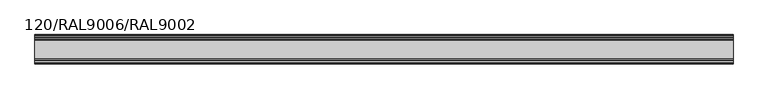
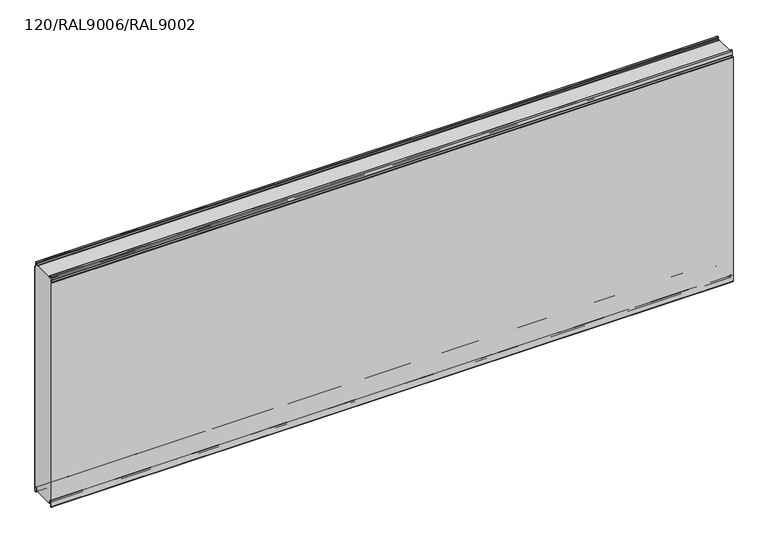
"""IFC4 building model written with IfcOpenShell, lengths in millimetres: plate geometry, TR_C_H_FTV_Panel : 120/RAL9006/RAL9002."""

from ifc_helpers import new_model, si_unit, point, frame, frame_2d, origin, place, context, project, spatial, polyline, circle_curve, trimmed, segment, composite_curve, outline, extrude, source, transform, mapped, element, save


def plate_120_ral9006_ral9002_e1d061e9(model_context):
    return source(origin(), model_context, "Body", "SweptSolid", [
        extrude(outline(composite_curve([segment(polyline([(-0.8, 14.4000012), (-9.45, 14.4000012)]), True, "CONTINUOUS"), segment(trimmed(circle_curve(frame_2d((-9.45, 10.1500012)), 4.25), [point((-9.45, 14.4000012))], [point((-13.635433, 10.8880059))], True, "CARTESIAN"), True, "CONTINUOUS"), segment(polyline([(-13.635433, 10.8880059), (-14.7022582, 4.837739)]), True, "CONTINUOUS"), segment(trimmed(circle_curve(frame_2d((-17.6074411, 5.3500012)), 2.95), [point((-14.7022582, 4.837739))], [point((-17.6074411, 2.4000012))], False, "CARTESIAN"), True, "CONTINUOUS"), segment(polyline([(-17.6074411, 2.4000012), (-23.7, 2.4000012), (-23.7, 1.2e-06), (-96.3, 1.2e-06), (-96.3, 2.4000012), (-102.3925589, 2.4000012)]), True, "CONTINUOUS"), segment(trimmed(circle_curve(frame_2d((-102.3925589, 5.3500012)), 2.95), [point((-102.3925589, 2.4000012))], [point((-105.2977418, 4.837739))], False, "CARTESIAN"), True, "CONTINUOUS"), segment(polyline([(-105.2977418, 4.837739), (-106.364567, 10.8880059)]), True, "CONTINUOUS"), segment(trimmed(circle_curve(frame_2d((-110.55, 10.1500012)), 4.25), [point((-106.364567, 10.8880059))], [point((-110.55, 14.4000012))], True, "CARTESIAN"), True, "CONTINUOUS"), segment(polyline([(-110.55, 14.4000012), (-119.2, 14.4000012), (-119.2, 984.3218266)]), True, "CONTINUOUS"), segment(trimmed(circle_curve(frame_2d((-117.0, 984.3218266)), 2.2), [point((-119.2, 984.3218266))], [point((-118.5556349, 985.8774615))], False, "CARTESIAN"), True, "CONTINUOUS"), segment(polyline([(-118.5556349, 985.8774615), (-114.1665476, 990.2665488)]), True, "CONTINUOUS"), segment(trimmed(circle_curve(frame_2d((-116.5, 992.6000012)), 3.3), [point((-114.1665476, 990.2665488))], [point((-113.2, 992.6000012))], True, "CARTESIAN"), True, "CONTINUOUS"), segment(polyline([(-113.2, 992.6000012), (-113.2, 1000.0), (-6.8, 1000.0), (-6.8, 992.6000012)]), True, "CONTINUOUS"), segment(trimmed(circle_curve(frame_2d((-3.5, 992.6000012)), 3.3), [point((-6.8, 992.6000012))], [point((-5.8334524, 990.2665488))], True, "CARTESIAN"), True, "CONTINUOUS"), segment(polyline([(-5.8334524, 990.2665488), (-1.4443651, 985.8774615)]), True, "CONTINUOUS"), segment(trimmed(circle_curve(frame_2d((-3.0, 984.3218266)), 2.2), [point((-1.4443651, 985.8774615))], [point((-0.8, 984.3218266))], False, "CARTESIAN"), True, "CONTINUOUS"), segment(polyline([(-0.8, 984.3218266), (-0.8, 14.4000012)]), True, "CONTINUOUS")], self_intersect=False)), frame((-1370.0, 0.0, 0.0), z_axis=(1.0, 0.0, 0.0), x_axis=(0.0, 1.0, 0.0)), (0.0, 0.0, 1.0), 2850.0),
        extrude(outline(composite_curve([segment(polyline([(-21.0, 2.4000012), (-17.6074411, 2.4000012)]), True, "CONTINUOUS"), segment(trimmed(circle_curve(frame_2d((-17.6074411, 5.3500012)), 2.95), [point((-17.6074411, 2.4000012))], [point((-14.7022582, 4.837739))], True, "CARTESIAN"), True, "CONTINUOUS"), segment(polyline([(-14.7022582, 4.837739), (-13.635433, 10.8880059)]), True, "CONTINUOUS"), segment(trimmed(circle_curve(frame_2d((-9.45, 10.1500012)), 4.25), [point((-13.635433, 10.8880059))], [point((-5.2, 10.1500012))], False, "CARTESIAN"), True, "CONTINUOUS"), segment(polyline([(-5.2, 10.1500012), (-5.2, -7.4499988)]), True, "CONTINUOUS"), segment(trimmed(circle_curve(frame_2d((-4.05, -7.4499988)), 1.15), [point((-5.2, -7.4499988))], [point((-3.2368272, -8.2631716))], True, "CARTESIAN"), True, "CONTINUOUS"), segment(polyline([(-3.2368272, -8.2631716), (-1.3711418, -6.3974862)]), True, "CONTINUOUS"), segment(trimmed(circle_curve(frame_2d((-2.75, -5.018628)), 1.95), [point((-1.3711418, -6.3974862))], [point((-0.8, -5.018628))], True, "CARTESIAN"), True, "CONTINUOUS"), segment(polyline([(-0.8, -5.018628), (-0.8, 984.3218266)]), True, "CONTINUOUS"), segment(trimmed(circle_curve(frame_2d((-3.0, 984.3218266)), 2.2), [point((-0.8, 984.3218266))], [point((-1.4443651, 985.8774615))], True, "CARTESIAN"), True, "CONTINUOUS"), segment(polyline([(-1.4443651, 985.8774615), (-5.8334524, 990.2665488)]), True, "CONTINUOUS"), segment(trimmed(circle_curve(frame_2d((-3.5, 992.6000012)), 3.3), [point((-5.8334524, 990.2665488))], [point((-6.8, 992.6000012))], False, "CARTESIAN"), True, "CONTINUOUS"), segment(polyline([(-6.8, 992.6000012), (-6.8, 1007.3500012)]), True, "CONTINUOUS"), segment(trimmed(circle_curve(frame_2d((-9.25, 1007.3500012)), 2.45), [point((-6.8, 1007.3500012))], [point((-11.662779, 1007.7754392))], True, "CARTESIAN"), True, "CONTINUOUS"), segment(polyline([(-11.662779, 1007.7754392), (-12.4060919, 1003.559902)]), True, "CONTINUOUS"), segment(trimmed(circle_curve(frame_2d((-16.8869672, 1004.3500012)), 4.55), [point((-12.4060919, 1003.559902))], [point((-16.8869672, 999.8000012))], False, "CARTESIAN"), True, "CONTINUOUS"), segment(polyline([(-16.8869672, 999.8000012), (-21.0, 999.8000012), (-21.0, 1000.6000012), (-16.8869672, 1000.6000012)]), True, "CONTINUOUS"), segment(trimmed(circle_curve(frame_2d((-16.8869672, 1004.3500012)), 3.75), [point((-16.8869672, 1000.6000012))], [point((-13.1939382, 1003.6988205))], True, "CARTESIAN"), True, "CONTINUOUS"), segment(polyline([(-13.1939382, 1003.6988205), (-12.4506252, 1007.9143577)]), True, "CONTINUOUS"), segment(trimmed(circle_curve(frame_2d((-9.25, 1007.3500012)), 3.25), [point((-12.4506252, 1007.9143577))], [point((-6.0, 1007.3500012))], False, "CARTESIAN"), True, "CONTINUOUS"), segment(polyline([(-6.0, 1007.3500012), (-6.0, 992.6000012)]), True, "CONTINUOUS"), segment(trimmed(circle_curve(frame_2d((-3.5, 992.6000012)), 2.5), [point((-6.0, 992.6000012))], [point((-5.267767, 990.8322342))], True, "CARTESIAN"), True, "CONTINUOUS"), segment(polyline([(-5.267767, 990.8322342), (-0.8786797, 986.4431469)]), True, "CONTINUOUS"), segment(trimmed(circle_curve(frame_2d((-3.0, 984.3218266)), 3.0), [point((-0.8786797, 986.4431469))], [point((0.0, 984.3218266))], False, "CARTESIAN"), True, "CONTINUOUS"), segment(polyline([(0.0, 984.3218266), (0.0, -5.018628)]), True, "CONTINUOUS"), segment(trimmed(circle_curve(frame_2d((-2.75, -5.018628)), 2.75), [point((0.0, -5.018628))], [point((-0.8054564, -6.9631716))], False, "CARTESIAN"), True, "CONTINUOUS"), segment(polyline([(-0.8054564, -6.9631716), (-2.6711418, -8.8288571)]), True, "CONTINUOUS"), segment(trimmed(circle_curve(frame_2d((-4.05, -7.4499988)), 1.95), [point((-2.6711418, -8.8288571))], [point((-6.0, -7.4499988))], False, "CARTESIAN"), True, "CONTINUOUS"), segment(polyline([(-6.0, -7.4499988), (-6.0, 10.1500012)]), True, "CONTINUOUS"), segment(trimmed(circle_curve(frame_2d((-9.45, 10.1500012)), 3.45), [point((-6.0, 10.1500012))], [point((-12.8475867, 10.7490874))], True, "CARTESIAN"), True, "CONTINUOUS"), segment(polyline([(-12.8475867, 10.7490874), (-13.914412, 4.6988205)]), True, "CONTINUOUS"), segment(trimmed(circle_curve(frame_2d((-17.6074411, 5.3500012)), 3.75), [point((-13.914412, 4.6988205))], [point((-17.6074411, 1.6000012))], False, "CARTESIAN"), True, "CONTINUOUS"), segment(polyline([(-17.6074411, 1.6000012), (-21.0, 1.6000012), (-21.0, 2.4000012)]), True, "CONTINUOUS")], self_intersect=False)), frame((-1370.0, 0.0, 0.0), z_axis=(1.0, 0.0, 0.0), x_axis=(0.0, 1.0, 0.0)), (0.0, 0.0, 1.0), 2850.0),
        extrude(outline(composite_curve([segment(trimmed(circle_curve(frame_2d((-103.1130328, 1004.3500012)), 4.55), [point((-103.1130328, 999.8000012))], [point((-107.5939081, 1003.559902))], False, "CARTESIAN"), True, "CONTINUOUS"), segment(polyline([(-107.5939081, 1003.559902), (-108.337221, 1007.7754392)]), True, "CONTINUOUS"), segment(trimmed(circle_curve(frame_2d((-110.75, 1007.3500012)), 2.45), [point((-108.337221, 1007.7754392))], [point((-113.2, 1007.3500012))], True, "CARTESIAN"), True, "CONTINUOUS"), segment(polyline([(-113.2, 1007.3500012), (-113.2, 992.6000012)]), True, "CONTINUOUS"), segment(trimmed(circle_curve(frame_2d((-116.5, 992.6000012)), 3.3), [point((-113.2, 992.6000012))], [point((-114.1665476, 990.2665488))], False, "CARTESIAN"), True, "CONTINUOUS"), segment(polyline([(-114.1665476, 990.2665488), (-118.5556349, 985.8774615)]), True, "CONTINUOUS"), segment(trimmed(circle_curve(frame_2d((-117.0, 984.3218266)), 2.2), [point((-118.5556349, 985.8774615))], [point((-119.2, 984.3218266))], True, "CARTESIAN"), True, "CONTINUOUS"), segment(polyline([(-119.2, 984.3218266), (-119.2, -5.018628)]), True, "CONTINUOUS"), segment(trimmed(circle_curve(frame_2d((-117.25, -5.018628)), 1.95), [point((-119.2, -5.018628))], [point((-118.6288582, -6.3974862))], True, "CARTESIAN"), True, "CONTINUOUS"), segment(polyline([(-118.6288582, -6.3974862), (-116.7631728, -8.2631716)]), True, "CONTINUOUS"), segment(trimmed(circle_curve(frame_2d((-115.95, -7.4499988)), 1.15), [point((-116.7631728, -8.2631716))], [point((-114.8, -7.4499988))], True, "CARTESIAN"), True, "CONTINUOUS"), segment(polyline([(-114.8, -7.4499988), (-114.8, 10.1500012)]), True, "CONTINUOUS"), segment(trimmed(circle_curve(frame_2d((-110.55, 10.1500012)), 4.25), [point((-114.8, 10.1500012))], [point((-106.364567, 10.8880059))], False, "CARTESIAN"), True, "CONTINUOUS"), segment(polyline([(-106.364567, 10.8880059), (-105.2977418, 4.837739)]), True, "CONTINUOUS"), segment(trimmed(circle_curve(frame_2d((-102.3925589, 5.3500012)), 2.95), [point((-105.2977418, 4.837739))], [point((-102.3925589, 2.4000012))], True, "CARTESIAN"), True, "CONTINUOUS"), segment(polyline([(-102.3925589, 2.4000012), (-99.0, 2.4000012), (-99.0, 1.6000012), (-102.3925589, 1.6000012)]), True, "CONTINUOUS"), segment(trimmed(circle_curve(frame_2d((-102.3925589, 5.3500012)), 3.75), [point((-102.3925589, 1.6000012))], [point((-106.085588, 4.6988205))], False, "CARTESIAN"), True, "CONTINUOUS"), segment(polyline([(-106.085588, 4.6988205), (-107.1524133, 10.7490874)]), True, "CONTINUOUS"), segment(trimmed(circle_curve(frame_2d((-110.55, 10.1500012)), 3.45), [point((-107.1524133, 10.7490874))], [point((-114.0, 10.1500012))], True, "CARTESIAN"), True, "CONTINUOUS"), segment(polyline([(-114.0, 10.1500012), (-114.0, -7.4499988)]), True, "CONTINUOUS"), segment(trimmed(circle_curve(frame_2d((-115.95, -7.4499988)), 1.95), [point((-114.0, -7.4499988))], [point((-117.3288582, -8.8288571))], False, "CARTESIAN"), True, "CONTINUOUS"), segment(polyline([(-117.3288582, -8.8288571), (-119.1945436, -6.9631716)]), True, "CONTINUOUS"), segment(trimmed(circle_curve(frame_2d((-117.25, -5.018628)), 2.75), [point((-119.1945436, -6.9631716))], [point((-120.0, -5.018628))], False, "CARTESIAN"), True, "CONTINUOUS"), segment(polyline([(-120.0, -5.018628), (-120.0, 984.3218266)]), True, "CONTINUOUS"), segment(trimmed(circle_curve(frame_2d((-117.0, 984.3218266)), 3.0), [point((-120.0, 984.3218266))], [point((-119.1213203, 986.4431469))], False, "CARTESIAN"), True, "CONTINUOUS"), segment(polyline([(-119.1213203, 986.4431469), (-114.732233, 990.8322342)]), True, "CONTINUOUS"), segment(trimmed(circle_curve(frame_2d((-116.5, 992.6000012)), 2.5), [point((-114.732233, 990.8322342))], [point((-114.0, 992.6000012))], True, "CARTESIAN"), True, "CONTINUOUS"), segment(polyline([(-114.0, 992.6000012), (-114.0, 1007.3500012)]), True, "CONTINUOUS"), segment(trimmed(circle_curve(frame_2d((-110.75, 1007.3500012)), 3.25), [point((-114.0, 1007.3500012))], [point((-107.5493748, 1007.9143577))], False, "CARTESIAN"), True, "CONTINUOUS"), segment(polyline([(-107.5493748, 1007.9143577), (-106.8060618, 1003.6988205)]), True, "CONTINUOUS"), segment(trimmed(circle_curve(frame_2d((-103.1130328, 1004.3500012)), 3.75), [point((-106.8060618, 1003.6988205))], [point((-103.1130328, 1000.6000012))], True, "CARTESIAN"), True, "CONTINUOUS"), segment(polyline([(-103.1130328, 1000.6000012), (-99.0, 1000.6000012), (-99.0, 999.8000012), (-103.1130328, 999.8000012)]), True, "CONTINUOUS")], self_intersect=False)), frame((-1370.0, 0.0, 0.0), z_axis=(1.0, 0.0, 0.0), x_axis=(0.0, 1.0, 0.0)), (0.0, 0.0, 1.0), 2850.0),
    ])


if __name__ == "__main__":
    model = new_model("IFC4")
    model_context = context("Model", 3, world=origin())
    ifc_project = project(units=[si_unit("LENGTHUNIT", "METRE", prefix="MILLI")], contexts=[model_context])
    site = spatial("IfcSite", under=ifc_project)
    building = spatial("IfcBuilding", under=site)
    placement = place(None, origin())
    plate_120_ral9006_ral9002_shape = plate_120_ral9006_ral9002_e1d061e9(model_context)
    element("IfcPlate", 1, ObjectType="TR_C_H_FTV_Panel : 120/RAL9006/RAL9002", at=placement, inside=building, context=model_context, shape_type="MappedRepresentation", body=[
        mapped(plate_120_ral9006_ral9002_shape, transform((0.0, 0.0, 0.0), x_axis=(1.0, 0.0, 0.0), y_axis=(0.0, 1.0, 0.0), z_axis=(0.0, 0.0, 1.0))),
    ])
    save(model, "model.ifc")
